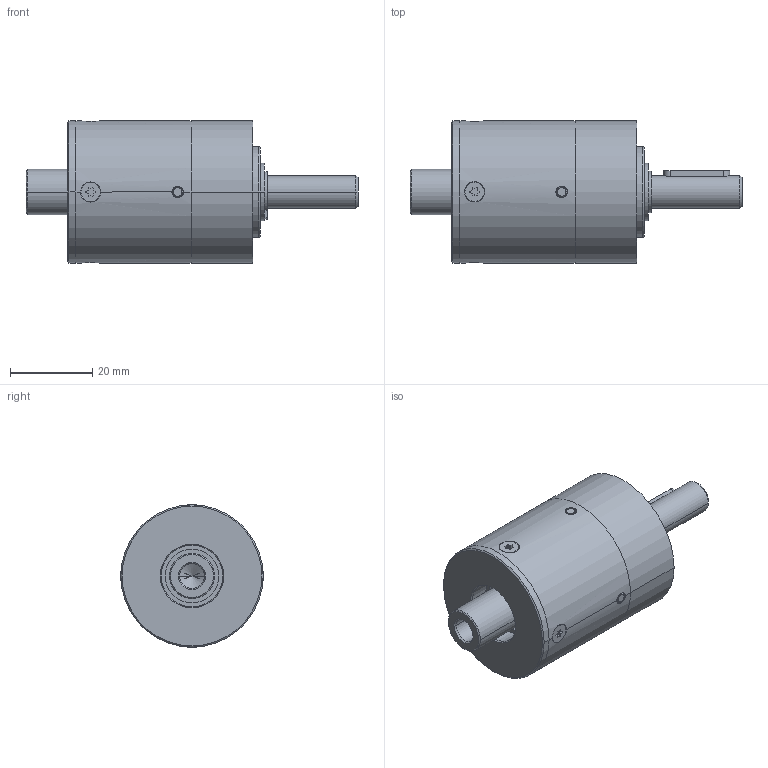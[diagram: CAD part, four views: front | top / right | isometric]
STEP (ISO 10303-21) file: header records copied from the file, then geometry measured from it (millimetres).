
FILE_DESCRIPTION((''),'2;1');
FILE_NAME('IMS35_PRO_MAX_1_STAGE_ASM','2023-07-27T11:59:56',('mhummel'),(''),'CREO PARAMETRIC BY PTC INC, 2020184','CREO PARAMETRIC BY PTC INC, 2020184','');
FILE_SCHEMA(('AUTOMOTIVE_DESIGN { 1 0 10303 214 1 1 1 1 }'));
Length unit declared in the file: millimetre
Products named in the file (16): IMS35_PRO_MAX_BEARING_FLANGE; IMS35_PRO_MAX_BALL_BEARING; IMS35_PRO_MAX_RING_GEAR_1; IMS35_PRO_MAX_CYLINDER_PIN; IMS35_PRO_MAX_RING_GEAR_1_STAGE_ASM; IMS35_PRO_MAX_MOTOR_FLANGE; IMS35_PRO_MAX_SHAFT_RAW_AF0; IMS35_PRO_MAX_SHAFT_ASM; IMS35_PRO_MAX_SHIM_RING; IMS35_PRO_MAX_RETAINING_RING_A; IMS35_PRO_MAX_FEATHER_KEY; IMS35_PRO_MAX_THRUST_WASHER; IMS35_PRO_MAX_SCREW; IMS35_PRO_MAX_MO_PINION_LONG; IMS35_PRO_MAX_MO_PINION_SHORT; IMS35_PRO_MAX_1_STAGE_ASM
Assembly tree (22 placements, depth 3):
  IMS35_PRO_MAX_1_STAGE_ASM
    IMS35_PRO_MAX_BEARING_FLANGE
    IMS35_PRO_MAX_BALL_BEARING  x2
    IMS35_PRO_MAX_RING_GEAR_1_STAGE_ASM
      IMS35_PRO_MAX_RING_GEAR_1
      IMS35_PRO_MAX_CYLINDER_PIN  x4
    IMS35_PRO_MAX_MOTOR_FLANGE
    IMS35_PRO_MAX_SHAFT_ASM
      IMS35_PRO_MAX_SHAFT_RAW_AF0
    IMS35_PRO_MAX_SHIM_RING
    IMS35_PRO_MAX_RETAINING_RING_A
    IMS35_PRO_MAX_FEATHER_KEY
    IMS35_PRO_MAX_THRUST_WASHER
    IMS35_PRO_MAX_SCREW  x4
    IMS35_PRO_MAX_MO_PINION_LONG
    IMS35_PRO_MAX_MO_PINION_SHORT
Bounding box: 80.75 x 34.6 x 34.6 mm (x, y, z)
Volume: 34409 mm3; surface area: 25725.8 mm2
Topology: 24 solids, 26 shells, 446 faces, 1025 edges, 626 vertices
Faces by surface type: cylinder 198, plane 120, cone 70, torus 42, revolution 16
Entity records: 11704 total; most frequent: CARTESIAN_POINT 1878, DIRECTION 1527, ORIENTED_EDGE 1258, PRESENTATION_STYLE_ASSIGNMENT 708, STYLED_ITEM 704, CURVE_STYLE 633, AXIS2_PLACEMENT_3D 629, EDGE_CURVE 629
